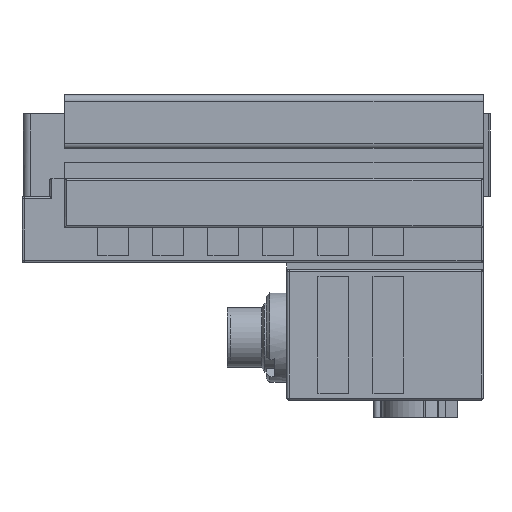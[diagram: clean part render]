
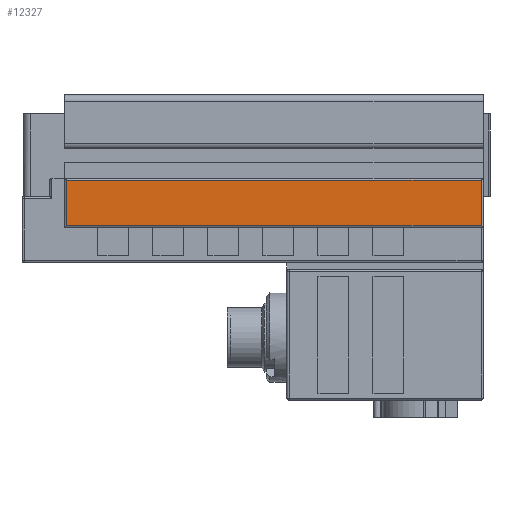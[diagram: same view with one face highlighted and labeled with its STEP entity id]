
A CAD part, left-side view. The second image highlights one B-rep face of the part: STEP entity #12327.
In plain terms, the highlighted planar face has unit normal (-1, 0, 0).
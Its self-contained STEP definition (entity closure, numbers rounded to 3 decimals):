
#475=LINE('',#18078,#1832);
#478=LINE('',#18091,#1835);
#582=LINE('',#18372,#1939);
#583=LINE('',#18374,#1940);
#1832=VECTOR('',#14565,10.);
#1835=VECTOR('',#14576,10.);
#1939=VECTOR('',#14830,10.);
#1940=VECTOR('',#14833,10.);
#3332=FACE_OUTER_BOUND('',#4032,.T.);
#4032=EDGE_LOOP('',(#8711,#8712,#8713,#8714));
#5199=VERTEX_POINT('',#18076);
#5200=VERTEX_POINT('',#18077);
#5205=VERTEX_POINT('',#18088);
#5206=VERTEX_POINT('',#18090);
#6507=EDGE_CURVE('',#5199,#5200,#475,.T.);
#6513=EDGE_CURVE('',#5205,#5206,#478,.T.);
#6648=EDGE_CURVE('',#5200,#5205,#582,.T.);
#6649=EDGE_CURVE('',#5206,#5199,#583,.T.);
#8711=ORIENTED_EDGE('',*,*,#6648,.F.);
#8712=ORIENTED_EDGE('',*,*,#6507,.F.);
#8713=ORIENTED_EDGE('',*,*,#6649,.F.);
#8714=ORIENTED_EDGE('',*,*,#6513,.F.);
#11814=PLANE('',#13138);
#12327=ADVANCED_FACE('',(#3332),#11814,.T.);
#13138=AXIS2_PLACEMENT_3D('',#18373,#14831,#14832);
#14565=DIRECTION('',(0.,1.,0.));
#14576=DIRECTION('',(0.,-1.,0.));
#14830=DIRECTION('',(0.,0.,1.));
#14831=DIRECTION('center_axis',(-1.,0.,0.));
#14832=DIRECTION('ref_axis',(0.,0.,1.));
#14833=DIRECTION('',(0.,0.,-1.));
#18076=CARTESIAN_POINT('',(-63.7,-6.1,-4.2));
#18077=CARTESIAN_POINT('',(-63.7,54.1,-4.2));
#18078=CARTESIAN_POINT('',(-63.7,9.6,-4.2));
#18088=CARTESIAN_POINT('',(-63.7,54.1,2.35));
#18090=CARTESIAN_POINT('',(-63.7,-6.1,2.35));
#18091=CARTESIAN_POINT('',(-63.7,-6.4,2.35));
#18372=CARTESIAN_POINT('',(-63.7,54.1,0.229));
#18373=CARTESIAN_POINT('Origin',(-63.7,-6.4,2.65));
#18374=CARTESIAN_POINT('',(-63.7,-6.1,1.325));
